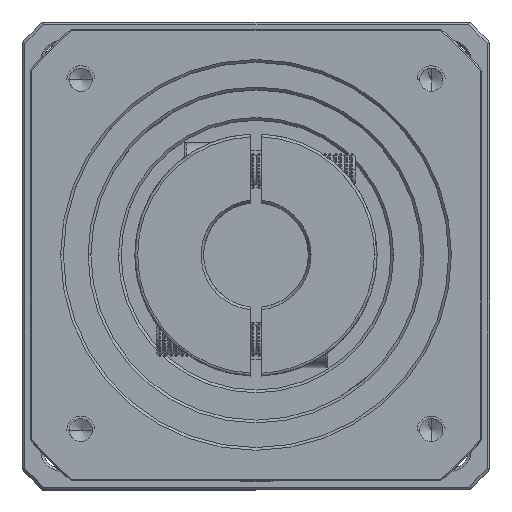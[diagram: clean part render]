
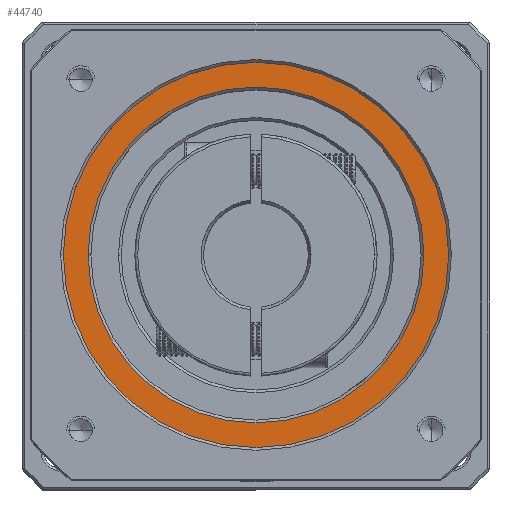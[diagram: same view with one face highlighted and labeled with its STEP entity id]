
A CAD part, top view. The second image highlights one B-rep face of the part: STEP entity #44740.
In plain terms, the highlighted planar face has unit normal (0, 0, 1).
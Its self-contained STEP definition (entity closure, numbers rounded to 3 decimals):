
#1305 = FACE_BOUND ( 'NONE', #31062, .T. ) ;
#2017 = DIRECTION ( 'NONE',  ( 0., 0., 1. ) ) ;
#9649 = AXIS2_PLACEMENT_3D ( 'NONE', #41727, #104405, #50655 ) ;
#10299 = AXIS2_PLACEMENT_3D ( 'NONE', #93447, #39861, #102512 ) ;
#10362 = DIRECTION ( 'NONE',  ( 0., 0., 1. ) ) ;
#15218 = VERTEX_POINT ( 'NONE', #36877 ) ;
#18226 = AXIS2_PLACEMENT_3D ( 'NONE', #42456, #105111, #51372 ) ;
#22769 = VERTEX_POINT ( 'NONE', #32555 ) ;
#25140 = FACE_OUTER_BOUND ( 'NONE', #33909, .T. ) ;
#26118 = ORIENTED_EDGE ( 'NONE', *, *, #114711, .T. ) ;
#31062 = EDGE_LOOP ( 'NONE', ( #65449, #26118 ) ) ;
#32278 = CARTESIAN_POINT ( 'NONE',  ( -114.568, 35.876, 21.012 ) ) ;
#32555 = CARTESIAN_POINT ( 'NONE',  ( -49.068, 35.876, 21.012 ) ) ;
#33909 = EDGE_LOOP ( 'NONE', ( #77999, #110256 ) ) ;
#36877 = CARTESIAN_POINT ( 'NONE',  ( -119.068, 35.876, 21.012 ) ) ;
#39861 = DIRECTION ( 'NONE',  ( 0., 0., -1. ) ) ;
#41727 = CARTESIAN_POINT ( 'NONE',  ( -84.068, 35.876, 21.012 ) ) ;
#42456 = CARTESIAN_POINT ( 'NONE',  ( -84.068, 35.876, 21.012 ) ) ;
#42615 = CIRCLE ( 'NONE', #108236, 35. ) ;
#44740 = ADVANCED_FACE ( 'NONE', ( #25140, #1305 ), #68354, .T. ) ;
#50655 = DIRECTION ( 'NONE',  ( 1., 0., 0. ) ) ;
#51372 = DIRECTION ( 'NONE',  ( 1., 0., 0. ) ) ;
#54816 = CIRCLE ( 'NONE', #68081, 35. ) ;
#55115 = EDGE_CURVE ( 'NONE', #83312, #75953, #57789, .T. ) ;
#55773 = CARTESIAN_POINT ( 'NONE',  ( -84.068, 35.876, 21.012 ) ) ;
#57789 = CIRCLE ( 'NONE', #10299, 30.5 ) ;
#64042 = CARTESIAN_POINT ( 'NONE',  ( -84.068, 35.876, 21.012 ) ) ;
#64109 = EDGE_CURVE ( 'NONE', #22769, #15218, #54816, .T. ) ;
#64780 = DIRECTION ( 'NONE',  ( 1., 0., 0. ) ) ;
#65449 = ORIENTED_EDGE ( 'NONE', *, *, #55115, .T. ) ;
#68081 = AXIS2_PLACEMENT_3D ( 'NONE', #55773, #2017, #64780 ) ;
#68354 = PLANE ( 'NONE',  #9649 ) ;
#73046 = DIRECTION ( 'NONE',  ( 1., 0., 0. ) ) ;
#75953 = VERTEX_POINT ( 'NONE', #32278 ) ;
#77999 = ORIENTED_EDGE ( 'NONE', *, *, #64109, .T. ) ;
#83312 = VERTEX_POINT ( 'NONE', #108485 ) ;
#88588 = EDGE_CURVE ( 'NONE', #15218, #22769, #42615, .T. ) ;
#89716 = CIRCLE ( 'NONE', #18226, 30.5 ) ;
#93447 = CARTESIAN_POINT ( 'NONE',  ( -84.068, 35.876, 21.012 ) ) ;
#102512 = DIRECTION ( 'NONE',  ( 1., 0., 0. ) ) ;
#104405 = DIRECTION ( 'NONE',  ( 0., 0., 1. ) ) ;
#105111 = DIRECTION ( 'NONE',  ( 0., 0., -1. ) ) ;
#108236 = AXIS2_PLACEMENT_3D ( 'NONE', #64042, #10362, #73046 ) ;
#108485 = CARTESIAN_POINT ( 'NONE',  ( -53.568, 35.876, 21.012 ) ) ;
#110256 = ORIENTED_EDGE ( 'NONE', *, *, #88588, .T. ) ;
#114711 = EDGE_CURVE ( 'NONE', #75953, #83312, #89716, .T. ) ;
